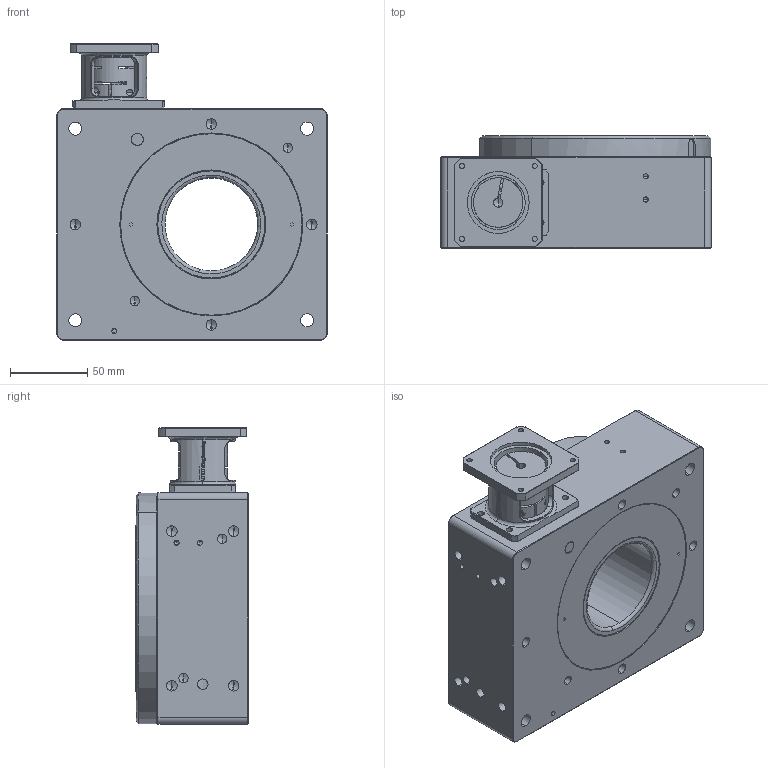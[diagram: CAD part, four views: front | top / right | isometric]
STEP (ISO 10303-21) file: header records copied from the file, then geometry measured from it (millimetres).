
FILE_DESCRIPTION (( 'STEP AP203' ), '1' );
FILE_NAME ('MDT360150-SG-I48-AK-B.STEP', '2018-08-24T15:23:42', ( '' ), ( '' ), 'SwSTEP 2.0', 'SolidWorks 2016', '' );
FILE_SCHEMA (( 'CONFIG_CONTROL_DESIGN' ));
Length unit declared in the file: millimetre
Products named in the file (3): MDT360150-000-01-Gehäuse-komplett; MDT360150-000-02-Drehscheibe-komplett; MDT360150-SG-I48-AK-B
Assembly tree (2 placements, depth 2):
  MDT360150-SG-I48-AK-B
    MDT360150-000-01-Gehäuse-komplett
    MDT360150-000-02-Drehscheibe-komplett
Bounding box: 175 x 73 x 192 mm (x, y, z)
Volume: 1238641.2 mm3; surface area: 310333 mm2
Topology: 64 solids, 70 shells, 1707 faces, 4451 edges, 2877 vertices
Faces by surface type: cylinder 530, bspline 470, plane 457, cone 230, torus 20
Entity records: 88074 total; most frequent: CARTESIAN_POINT 49224, ORIENTED_EDGE 8676, DIRECTION 7023, EDGE_CURVE 4338, VERTEX_POINT 2877, AXIS2_PLACEMENT_3D 2663, EDGE_LOOP 1881, FACE_OUTER_BOUND 1707
